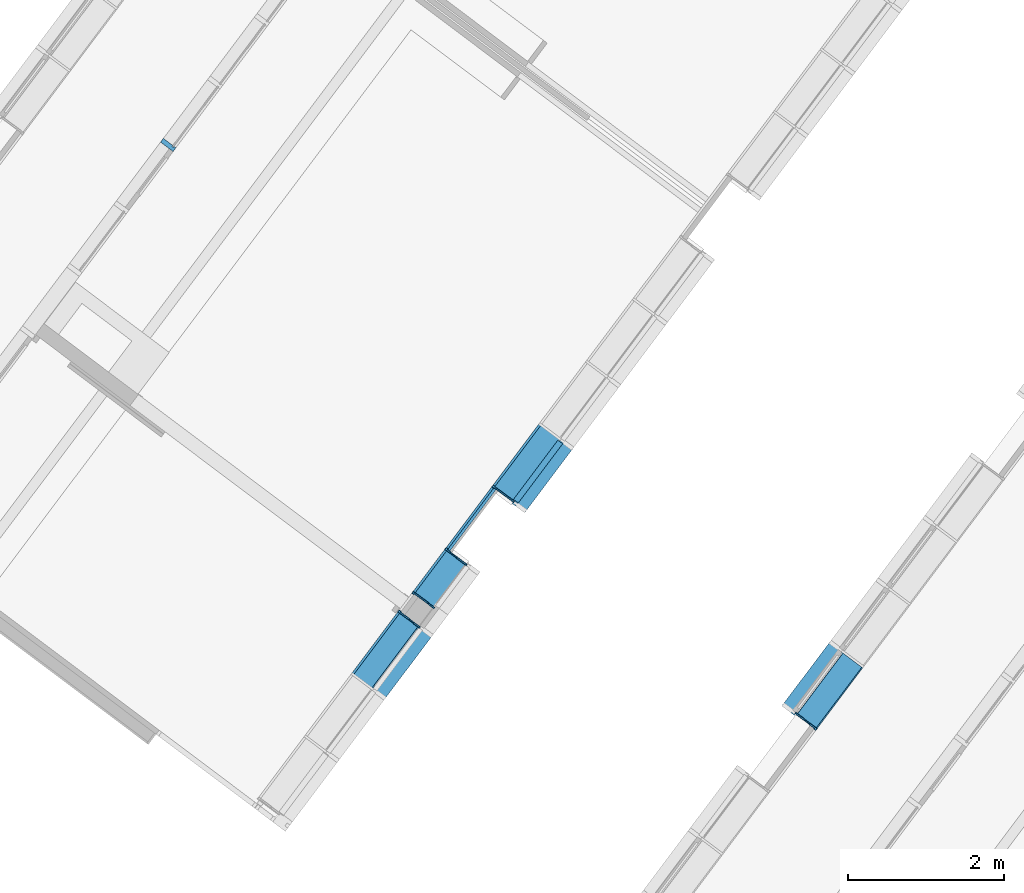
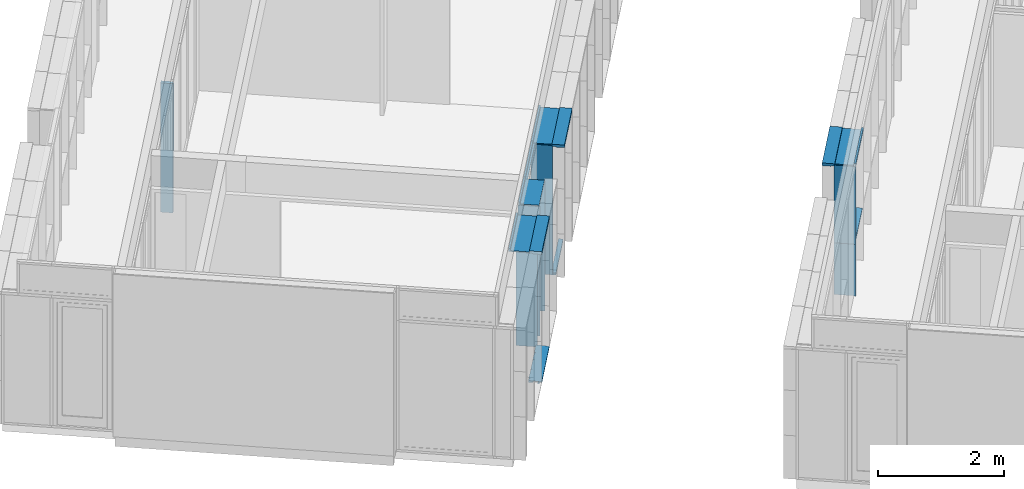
# One storey, part 39 of 243: 18 members, 5 elements without a shape of their own.
"""IFC2X3 building model written with IfcOpenShell, lengths in metres."""

from ifc_helpers import new_model, entity, si_unit, converted_unit, derived_unit, direction, frame, frame_2d, origin, origin_2d_with_axis, place, context, subcontext, project, spatial, polyline, circle_curve, parameter, trimmed, segment, composite_curve, rectangle, outline, extrude, source, transform, mapped, material, type_object, type_shapes, element, aggregate, save


model = new_model("IFC2X3")

# Units and contexts
model_context = context("Model", 3, precision=1e-05, world=origin(), true_north=direction((6.123031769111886e-17, 1.0)))
body_context = subcontext(model_context, "Body", "Model", "MODEL_VIEW")
ifc_project = project(units=[si_unit("LENGTHUNIT", "METRE"), si_unit("AREAUNIT", "SQUARE_METRE"), si_unit("VOLUMEUNIT", "CUBIC_METRE"), converted_unit("PLANEANGLEUNIT", "DEGREE", entity("IfcRatioMeasure", 0.017453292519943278), si_unit("PLANEANGLEUNIT", "RADIAN"), dimensions=[0, 0, 0, 0, 0, 0, 0]), si_unit("MASSUNIT", "GRAM", prefix="KILO"), derived_unit("MASSDENSITYUNIT", [(si_unit("MASSUNIT", "GRAM", prefix="KILO"), 1), (si_unit("LENGTHUNIT", "METRE"), -3)]), derived_unit("IONCONCENTRATIONUNIT", [(si_unit("MASSUNIT", "GRAM", prefix="KILO"), 1), (si_unit("LENGTHUNIT", "METRE"), -3)]), derived_unit("MOMENTOFINERTIAUNIT", [(si_unit("LENGTHUNIT", "METRE"), 4)]), si_unit("TIMEUNIT", "SECOND"), si_unit("FREQUENCYUNIT", "HERTZ"), si_unit("THERMODYNAMICTEMPERATUREUNIT", "DEGREE_CELSIUS"), derived_unit("THERMALTRANSMITTANCEUNIT", [(si_unit("MASSUNIT", "GRAM", prefix="KILO"), 1), (si_unit("THERMODYNAMICTEMPERATUREUNIT", "KELVIN"), -1), (si_unit("TIMEUNIT", "SECOND"), -3)]), derived_unit("THERMALCONDUCTANCEUNIT", [(si_unit("MASSUNIT", "GRAM", prefix="KILO"), 1), (si_unit("THERMODYNAMICTEMPERATUREUNIT", "KELVIN"), -1), (si_unit("TIMEUNIT", "SECOND"), -3), (si_unit("LENGTHUNIT", "METRE"), 1)]), derived_unit("VOLUMETRICFLOWRATEUNIT", [(si_unit("LENGTHUNIT", "METRE"), 3), (si_unit("TIMEUNIT", "SECOND"), -1)]), derived_unit("MASSFLOWRATEUNIT", [(si_unit("MASSUNIT", "GRAM", prefix="KILO"), 1), (si_unit("TIMEUNIT", "SECOND"), -1)]), derived_unit("ROTATIONALFREQUENCYUNIT", [(si_unit("TIMEUNIT", "SECOND"), -1)]), si_unit("ELECTRICCURRENTUNIT", "AMPERE"), si_unit("ELECTRICVOLTAGEUNIT", "VOLT"), si_unit("POWERUNIT", "WATT"), si_unit("FORCEUNIT", "NEWTON", prefix="KILO"), si_unit("ILLUMINANCEUNIT", "LUX"), si_unit("LUMINOUSFLUXUNIT", "LUMEN"), si_unit("LUMINOUSINTENSITYUNIT", "CANDELA"), derived_unit("USERDEFINED", [(si_unit("MASSUNIT", "GRAM", prefix="KILO"), -1), (si_unit("LENGTHUNIT", "METRE"), -2), (si_unit("TIMEUNIT", "SECOND"), 3), (si_unit("LUMINOUSFLUXUNIT", "LUMEN"), 1)]), derived_unit("USERDEFINED", [(si_unit("MASSUNIT", "GRAM", prefix="KILO"), 1), (si_unit("TIMEUNIT", "SECOND"), -3), (si_unit("LENGTHUNIT", "METRE"), 3), (si_unit("ELECTRICCURRENTUNIT", "AMPERE"), -2)]), derived_unit("SOUNDPOWERUNIT", [(si_unit("MASSUNIT", "GRAM", prefix="KILO"), 1), (si_unit("TIMEUNIT", "SECOND"), -3), (si_unit("LENGTHUNIT", "METRE"), 2)]), derived_unit("SOUNDPRESSUREUNIT", [(si_unit("MASSUNIT", "GRAM", prefix="KILO"), 1), (si_unit("LENGTHUNIT", "METRE"), -1), (si_unit("TIMEUNIT", "SECOND"), -2)]), derived_unit("LINEARVELOCITYUNIT", [(si_unit("LENGTHUNIT", "METRE"), 1), (si_unit("TIMEUNIT", "SECOND"), -1)]), si_unit("PRESSUREUNIT", "PASCAL"), derived_unit("USERDEFINED", [(si_unit("MASSUNIT", "GRAM", prefix="KILO"), 1), (si_unit("LENGTHUNIT", "METRE"), -2), (si_unit("TIMEUNIT", "SECOND"), -2)]), derived_unit("LINEARFORCEUNIT", [(si_unit("MASSUNIT", "GRAM", prefix="KILO"), 1), (si_unit("TIMEUNIT", "SECOND"), -2)]), derived_unit("PLANARFORCEUNIT", [(si_unit("MASSUNIT", "GRAM", prefix="KILO"), 1), (si_unit("LENGTHUNIT", "METRE"), -1), (si_unit("TIMEUNIT", "SECOND"), -2)]), derived_unit("SPECIFICHEATCAPACITYUNIT", [(si_unit("THERMODYNAMICTEMPERATUREUNIT", "KELVIN"), -1), (si_unit("LENGTHUNIT", "METRE"), 2), (si_unit("TIMEUNIT", "SECOND"), -2)]), derived_unit("HEATINGVALUEUNIT", [(si_unit("LENGTHUNIT", "METRE"), 2), (si_unit("TIMEUNIT", "SECOND"), -2)]), derived_unit("VAPORPERMEABILITYUNIT", [(si_unit("LENGTHUNIT", "METRE"), -1), (si_unit("TIMEUNIT", "SECOND"), 1)]), derived_unit("DYNAMICVISCOSITYUNIT", [(si_unit("MASSUNIT", "GRAM", prefix="KILO"), 1), (si_unit("TIMEUNIT", "SECOND"), -1), (si_unit("LENGTHUNIT", "METRE"), -1)]), derived_unit("THERMALEXPANSIONCOEFFICIENTUNIT", [(si_unit("THERMODYNAMICTEMPERATUREUNIT", "KELVIN"), -1)]), derived_unit("MODULUSOFELASTICITYUNIT", [(si_unit("MASSUNIT", "GRAM", prefix="KILO"), 1), (si_unit("LENGTHUNIT", "METRE"), -1), (si_unit("TIMEUNIT", "SECOND"), -2)]), derived_unit("ISOTHERMALMOISTURECAPACITYUNIT", [(si_unit("LENGTHUNIT", "METRE"), 3), (si_unit("MASSUNIT", "GRAM", prefix="KILO"), -1)]), derived_unit("MOISTUREDIFFUSIVITYUNIT", [(si_unit("TIMEUNIT", "SECOND"), -1), (si_unit("LENGTHUNIT", "METRE"), 2)])], contexts=[model_context])

# Site, building, storey
site_placement = place(None, frame((0.0, 0.0, 235.0), z_axis=(0.0, 0.0, 1.0), x_axis=(-0.7996477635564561, 0.6004693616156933, 0.0)))
site = spatial("IfcSite", under=ifc_project, at=site_placement, Name="Default", CompositionType="ELEMENT")
building_placement = place(site_placement, origin())
building = spatial("IfcBuilding", under=site, at=building_placement, CompositionType="ELEMENT")
storey_placement = place(building_placement, origin())
storey = spatial("IfcBuildingStorey", under=building, at=storey_placement, Name="P0- Escola", CompositionType="ELEMENT", Elevation=0.0)

# Curtain wall, member
curtain_wall_type_1 = type_object("IfcCurtainWallType", Name="Muro cortina:MC- INT- a1", PredefinedType="NOTDEFINED")
curtain_wall_1_placement = place(storey_placement, origin())
curtain_wall_1 = element("IfcCurtainWall", 1, at=curtain_wall_1_placement, inside=storey, type_object=curtain_wall_type_1, Name="Muro cortina:MC- INT- a1", ObjectType="Muro cortina:MC- INT- a1")
ifc_material_1 = material(Name="_Fusta massisa- T1")
member_type_1 = type_object("IfcMemberType", Name="Montante rectangular:MC- Fusta- 20x6 cm- Dreta", PredefinedType="MULLION", material=ifc_material_1)
shared_shape_1 = source(origin(), body_context, "Body", "SweptSolid", [
    extrude(outline(polyline([(-0.07000000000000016, -0.041249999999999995), (0.13000000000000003, -0.041249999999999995), (0.13000000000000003, 0.01875), (-0.019999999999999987, 0.01875), (-0.019999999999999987, 0.00375), (-0.04000000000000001, 0.00375), (-0.03999999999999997, 0.01875), (-0.06999999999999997, 0.01875), (-0.07000000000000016, -0.041249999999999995)])), frame((0.011250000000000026, -0.02999999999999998, -2.5050000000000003), z_axis=(0.0, 0.0, 1.0), x_axis=(0.0, -1.0, 0.0)), (0.0, 0.0, 1.0), 2.5050000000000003),
])
type_shapes(member_type_1, [shared_shape_1])
member_1_placement = place(curtain_wall_1_placement, frame((72.720147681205, -26.415189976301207, 0.0), z_axis=(0.0, 0.0, -1.0), x_axis=(0.0, -1.0, 0.0)))
member_1 = element("IfcMember", 2, at=member_1_placement, type_object=member_type_1, material=ifc_material_1, Name="Montante rectangular:MC- Fusta- 20x6 cm- Dreta", ObjectType="Montante rectangular:MC- Fusta- 20x6 cm- Dreta", context=body_context, shape_type="MappedRepresentation", body=[
    mapped(shared_shape_1, transform((0.0, 0.0, 0.0), scale=1.0)),
])
aggregate(curtain_wall_1, [member_1])

# Curtain wall, members
curtain_wall_type_2 = type_object("IfcCurtainWallType", Name="Muro cortina:MC- EXT- MC2", PredefinedType="NOTDEFINED")
curtain_wall_2_placement = place(storey_placement, origin())
curtain_wall_2 = element("IfcCurtainWall", 3, at=curtain_wall_2_placement, inside=storey, type_object=curtain_wall_type_2, Name="Muro cortina:MC- EXT- MC2", ObjectType="Muro cortina:MC- EXT- MC2")
ifc_material_2 = material(Name="_Alumini- T1- Perfil")
member_type_2 = type_object("IfcMemberType", Name="Montante rectangular:MC- Alu- 140x52,5 cm- Fa patis- Superior", PredefinedType="MULLION", material=ifc_material_2)
shared_shape_2 = source(origin(), body_context, "Body", "SweptSolid", [
    extrude(outline(polyline([(-0.11366666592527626, -0.021249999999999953), (0.026333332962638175, -0.021249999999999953), (0.026333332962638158, -0.010000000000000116), (0.0873333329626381, -0.010000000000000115), (0.0873333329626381, 0.03125000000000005), (-0.11366666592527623, 0.031250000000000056), (-0.11366666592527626, -0.021249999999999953)])), frame((-0.031250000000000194, 0.0273333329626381, -1.0), z_axis=(0.0, 0.0, 1.0), x_axis=(0.0, -1.0, 0.0)), (0.0, 0.0, 1.0), 0.9999999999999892),
])
type_shapes(member_type_2, [shared_shape_2])
member_2_placement = place(curtain_wall_2_placement, frame((66.44514768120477, -23.415191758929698, 2.545), z_axis=(0.0, -1.0, 0.0), x_axis=(0.0, 0.0, 1.0)))
member_2 = element("IfcMember", 4, at=member_2_placement, type_object=member_type_2, material=ifc_material_2, Name="Montante rectangular:MC- Alu- 140x52,5 cm- Fa patis- Superior", ObjectType="Montante rectangular:MC- Alu- 140x52,5 cm- Fa patis- Superior", context=body_context, shape_type="MappedRepresentation", body=[
    mapped(shared_shape_2, transform((0.0, 0.0, 0.0), scale=1.0)),
])
member_type_3 = type_object("IfcMemberType", Name="Montante rectangular:MC- Alu- 140x52,5 cm- Fa patis- inferior", PredefinedType="MULLION", material=ifc_material_2)
shared_shape_3 = source(origin(), body_context, "Body", "SweptSolid", [
    extrude(outline(composite_curve([segment(polyline([(0.1278672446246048, -0.02586710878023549), (0.14416724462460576, -0.025867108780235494)]), True, "CONTINUOUS"), segment(polyline([(0.14416724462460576, -0.025867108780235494), (0.1441672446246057, 0.009132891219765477)]), True, "CONTINUOUS"), segment(polyline([(0.1441672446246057, 0.009132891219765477), (0.06786724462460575, 0.009132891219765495)]), True, "CONTINUOUS"), segment(polyline([(0.06786724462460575, 0.009132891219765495), (0.06786724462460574, -0.021159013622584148)]), True, "CONTINUOUS"), segment(polyline([(0.06786724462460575, -0.02115901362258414), (-0.030132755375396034, -0.012332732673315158)]), True, "CONTINUOUS"), segment(polyline([(-0.03013275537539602, -0.012332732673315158), (-0.030132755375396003, 0.027132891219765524)]), True, "CONTINUOUS"), segment(polyline([(-0.030132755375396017, 0.02713289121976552), (-0.0021327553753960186, 0.02713289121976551)]), True, "CONTINUOUS"), segment(polyline([(-0.0021327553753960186, 0.027132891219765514), (-0.0021327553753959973, 0.029132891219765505)]), True, "CONTINUOUS"), segment(polyline([(-0.0021327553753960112, 0.029132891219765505), (-0.032132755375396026, 0.029132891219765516)]), True, "CONTINUOUS"), segment(polyline([(-0.032132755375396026, 0.029132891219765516), (-0.03213275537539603, -0.012152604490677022)]), True, "CONTINUOUS"), segment(polyline([(-0.03213275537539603, -0.012152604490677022), (-0.0701327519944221, -0.008730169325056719)]), True, "CONTINUOUS"), segment(polyline([(-0.0701327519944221, -0.008730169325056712), (-0.0701327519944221, 0.005766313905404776)]), True, "CONTINUOUS"), segment(trimmed(circle_curve(frame_2d((-0.0696327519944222, 0.0057663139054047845), x_axis=(-1.0, 0.0)), 0.0004999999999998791), [parameter(269.999999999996)], [parameter(0.0)], True, "PARAMETER"), False, "CONTINUOUS"), segment(polyline([(-0.0696327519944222, 0.00626631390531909), (-0.06213275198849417, 0.006266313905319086)]), True, "CONTINUOUS"), segment(polyline([(-0.06213275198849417, 0.006266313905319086), (-0.06213275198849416, 0.008266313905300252)]), True, "CONTINUOUS"), segment(polyline([(-0.06213275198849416, 0.008266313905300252), (-0.07013275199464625, 0.008266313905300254)]), True, "CONTINUOUS"), segment(trimmed(circle_curve(frame_2d((-0.07013275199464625, 0.006266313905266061), x_axis=(0.0, 1.0)), 0.0020000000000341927), [parameter(0.0)], [parameter(90.00000002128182)], True, "PARAMETER"), True, "CONTINUOUS"), segment(polyline([(-0.07213275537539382, 0.006266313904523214), (-0.07213275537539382, -0.008730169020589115)]), True, "CONTINUOUS"), segment(trimmed(circle_curve(frame_2d((-0.07013275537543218, -0.008730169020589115), x_axis=(-1.0, 0.0)), 0.0019999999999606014), [parameter(0.0)], [parameter(84.8535928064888)], True, "PARAMETER"), True, "CONTINUOUS"), segment(polyline([(-0.07031215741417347, -0.01072210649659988), (0.06786724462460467, -0.023167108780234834)]), True, "CONTINUOUS"), segment(polyline([(0.06786724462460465, -0.023167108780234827), (0.12786724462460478, -0.023167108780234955)]), True, "CONTINUOUS"), segment(polyline([(0.12786724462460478, -0.023167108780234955), (0.1278672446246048, -0.02586710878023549)]), True, "CONTINUOUS")], self_intersect=False)), frame((-0.029132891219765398, 0.06786724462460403, -1.0), z_axis=(0.0, 0.0, 1.0), x_axis=(0.0, -1.0, 0.0)), (0.0, 0.0, 1.0), 0.9999999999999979),
])
type_shapes(member_type_3, [shared_shape_3])
member_3_placement = place(curtain_wall_2_placement, frame((66.44514768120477, -22.4151917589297, -0.02), z_axis=(0.0, 1.0, 0.0), x_axis=(0.0, 0.0, -1.0)))
member_3 = element("IfcMember", 5, at=member_3_placement, type_object=member_type_3, material=ifc_material_2, Name="Montante rectangular:MC- Alu- 140x52,5 cm- Fa patis- inferior", ObjectType="Montante rectangular:MC- Alu- 140x52,5 cm- Fa patis- inferior", context=body_context, shape_type="MappedRepresentation", body=[
    mapped(shared_shape_3, transform((0.0, 0.0, 0.0), scale=1.0)),
])

curtain_wall_type_3 = type_object("IfcCurtainWallType", Name="Muro cortina:MC- INT- k7- Aules infantil", PredefinedType="NOTDEFINED")
curtain_wall_3_placement = place(storey_placement, origin())
curtain_wall_3 = element("IfcCurtainWall", 6, at=curtain_wall_3_placement, inside=storey, type_object=curtain_wall_type_3, Name="Muro cortina:MC- INT- k7- Aules infantil", ObjectType="Muro cortina:MC- INT- k7- Aules infantil")
member_type_4 = type_object("IfcMemberType", Name="Montante rectangular:MC- Fusta- 35x3 cm- Pati aules- Remat superior", PredefinedType="MULLION", material=ifc_material_1)
shared_shape_4 = source(origin(), body_context, "Body", "SweptSolid", [
    extrude(outline(polyline([(-0.21333333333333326, -0.02666666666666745), (0.1216666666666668, -0.02666666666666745), (0.12166666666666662, 0.03333333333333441), (0.09166666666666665, 0.03333333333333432), (0.09166666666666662, -0.006666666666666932), (-0.2133333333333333, -0.006666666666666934), (-0.21333333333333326, -0.02666666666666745)])), frame((-0.033333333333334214, 0.026666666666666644, -1.0), z_axis=(0.0, 0.0, 1.0), x_axis=(0.0, -1.0, 0.0)), (0.0, 0.0, 1.0), 0.9999999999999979),
])
type_shapes(member_type_4, [shared_shape_4])
member_4_placement = place(curtain_wall_3_placement, frame((66.74514768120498, -23.415191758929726, 2.565), z_axis=(0.0, -1.0, 0.0), x_axis=(0.0, 0.0, 1.0)))
member_4 = element("IfcMember", 7, at=member_4_placement, type_object=member_type_4, material=ifc_material_1, Name="Montante rectangular:MC- Fusta- 35x3 cm- Pati aules- Remat superior", ObjectType="Montante rectangular:MC- Fusta- 35x3 cm- Pati aules- Remat superior", context=body_context, shape_type="MappedRepresentation", body=[
    mapped(shared_shape_4, transform((0.0, 0.0, 0.0), scale=1.0)),
])
member_type_5 = type_object("IfcMemberType", Name="Montante rectangular:MC- Fusta- 35x3 cm- Pati aules- Remat dreta", PredefinedType="MULLION", material=ifc_material_1)
shared_shape_5 = source(origin(), body_context, "Body", "SweptSolid", [
    extrude(outline(polyline([(-0.22, -0.01666666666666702), (0.12500000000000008, -0.01666666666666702), (0.12500000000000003, 0.013333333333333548), (0.09500000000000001, 0.013333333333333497), (0.09499999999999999, 0.003333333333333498), (-0.22, 0.003333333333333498), (-0.22, -0.01666666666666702)])), frame((0.0016666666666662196, 0.03000000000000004, -2.504999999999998), z_axis=(0.0, 0.0, 1.0), x_axis=(0.0, -1.0, 0.0)), (0.0, 0.0, 1.0), 2.5049999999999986),
])
type_shapes(member_type_5, [shared_shape_5])
member_5_placement = place(curtain_wall_3_placement, frame((66.74514768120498, -23.415191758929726, 0.0), z_axis=(0.0, 0.0, -1.0), x_axis=(0.0, -1.0, 0.0)))
member_5 = element("IfcMember", 8, at=member_5_placement, type_object=member_type_5, material=ifc_material_1, Name="Montante rectangular:MC- Fusta- 35x3 cm- Pati aules- Remat dreta", ObjectType="Montante rectangular:MC- Fusta- 35x3 cm- Pati aules- Remat dreta", context=body_context, shape_type="MappedRepresentation", body=[
    mapped(shared_shape_5, transform((0.0, 0.0, 0.0), scale=1.0)),
])
member_6_placement = place(curtain_wall_3_placement, frame((66.74514768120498, -24.415191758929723, 0.0), z_axis=(0.0, 0.0, -1.0), x_axis=(0.0, -1.0, 0.0)))
member_6 = element("IfcMember", 9, at=member_6_placement, type_object=member_type_5, material=ifc_material_1, Name="Montante rectangular:MC- Fusta- 35x3 cm- Pati aules- Remat dreta", ObjectType="Montante rectangular:MC- Fusta- 35x3 cm- Pati aules- Remat dreta", context=body_context, shape_type="MappedRepresentation", body=[
    mapped(shared_shape_5, transform((0.0, 0.0, 0.0), scale=1.0)),
])
member_type_6 = type_object("IfcMemberType", Name="Montante rectangular:MC- Fusta- 35x3 cm- Pati aules- Remat superior", PredefinedType="MULLION", material=ifc_material_1)
shared_shape_6 = source(origin(), body_context, "Body", "SweptSolid", [
    extrude(outline(polyline([(-0.21333333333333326, -0.02666666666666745), (0.1216666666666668, -0.02666666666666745), (0.12166666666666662, 0.03333333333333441), (0.09166666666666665, 0.03333333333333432), (0.09166666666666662, -0.006666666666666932), (-0.2133333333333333, -0.006666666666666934), (-0.21333333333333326, -0.02666666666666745)])), frame((-0.033333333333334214, 0.026666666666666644, -0.6999999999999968), z_axis=(0.0, 0.0, 1.0), x_axis=(0.0, -1.0, 0.0)), (0.0, 0.0, 1.0), 0.6999999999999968),
])
type_shapes(member_type_6, [shared_shape_6])
member_7_placement = place(curtain_wall_3_placement, frame((66.74514768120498, -24.415191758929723, 2.565), z_axis=(0.0, -1.0, 0.0), x_axis=(0.0, 0.0, 1.0)))
member_7 = element("IfcMember", 10, at=member_7_placement, type_object=member_type_6, material=ifc_material_1, Name="Montante rectangular:MC- Fusta- 35x3 cm- Pati aules- Remat superior", ObjectType="Montante rectangular:MC- Fusta- 35x3 cm- Pati aules- Remat superior", context=body_context, shape_type="MappedRepresentation", body=[
    mapped(shared_shape_6, transform((0.0, 0.0, 0.0), scale=1.0)),
])
member_type_7 = type_object("IfcMemberType", Name="Montante rectangular:MC- Fusta- 35x3 cm- Pati aules- Remat superior pilar", PredefinedType="MULLION", material=ifc_material_1)
shared_shape_7 = source(origin(), body_context, "Body", "SweptSolid", [
    extrude(outline(polyline([(-0.03333333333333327, -0.02666666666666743), (0.031666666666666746, -0.02666666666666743), (0.031666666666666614, 0.03333333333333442), (0.0016666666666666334, 0.033333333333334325), (0.0016666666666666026, -0.006666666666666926), (-0.03333333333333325, -0.00666666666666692), (-0.03333333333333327, -0.02666666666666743)])), frame((-0.03333333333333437, -0.06333333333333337, -1.0), z_axis=(0.0, 0.0, 1.0), x_axis=(0.0, -1.0, 0.0)), (0.0, 0.0, 1.0), 0.9999999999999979),
])
type_shapes(member_type_7, [shared_shape_7])
member_8_placement = place(curtain_wall_3_placement, frame((66.74514768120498, -25.415191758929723, 2.565), z_axis=(0.0, -1.0, 0.0), x_axis=(0.0, 0.0, 1.0)))
member_8 = element("IfcMember", 11, at=member_8_placement, type_object=member_type_7, material=ifc_material_1, Name="Montante rectangular:MC- Fusta- 35x3 cm- Pati aules- Remat superior pilar", ObjectType="Montante rectangular:MC- Fusta- 35x3 cm- Pati aules- Remat superior pilar", context=body_context, shape_type="MappedRepresentation", body=[
    mapped(shared_shape_7, transform((0.0, 0.0, 0.0), scale=1.0)),
])
member_type_8 = type_object("IfcMemberType", Name="Montante rectangular:MC- Fusta- 35x3 cm- Pati aules- Remat esquerra", PredefinedType="MULLION", material=ifc_material_1)
shared_shape_8 = source(origin(), body_context, "Body", "SweptSolid", [
    extrude(outline(polyline([(0.09500000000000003, -0.013333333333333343), (0.12500000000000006, -0.013333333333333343), (0.12500000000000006, 0.01666666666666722), (-0.22000000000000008, 0.016666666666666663), (-0.22000000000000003, -0.0033333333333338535), (0.09499999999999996, -0.003333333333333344), (0.09500000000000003, -0.013333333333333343)])), frame((-0.0016666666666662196, 0.03000000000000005, -2.504999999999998), z_axis=(0.0, 0.0, 1.0), x_axis=(0.0, -1.0, 0.0)), (0.0, 0.0, 1.0), 2.5049999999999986),
])
type_shapes(member_type_8, [shared_shape_8])
member_9_placement = place(curtain_wall_3_placement, frame((66.74514768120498, -25.415191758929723, 0.0), z_axis=(0.0, 0.0, -1.0), x_axis=(0.0, -1.0, 0.0)))
member_9 = element("IfcMember", 12, at=member_9_placement, type_object=member_type_8, material=ifc_material_1, Name="Montante rectangular:MC- Fusta- 35x3 cm- Pati aules- Remat esquerra", ObjectType="Montante rectangular:MC- Fusta- 35x3 cm- Pati aules- Remat esquerra", context=body_context, shape_type="MappedRepresentation", body=[
    mapped(shared_shape_8, transform((0.0, 0.0, 0.0), scale=1.0)),
])
member_type_9 = type_object("IfcMemberType", Name="Montante rectangular:MC- Fusta- 35x3 cm- Pati aules- Remat superior", PredefinedType="MULLION", material=ifc_material_1)
shared_shape_9 = source(origin(), body_context, "Body", "SweptSolid", [
    extrude(outline(polyline([(-0.21333333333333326, -0.02666666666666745), (0.1216666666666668, -0.02666666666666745), (0.12166666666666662, 0.03333333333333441), (0.09166666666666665, 0.03333333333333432), (0.09166666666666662, -0.006666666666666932), (-0.2133333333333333, -0.006666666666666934), (-0.21333333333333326, -0.02666666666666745)])), frame((-0.033333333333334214, 0.026666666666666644, -1.0), z_axis=(0.0, 0.0, 1.0), x_axis=(0.0, -1.0, 0.0)), (0.0, 0.0, 1.0), 0.9999999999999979),
])
type_shapes(member_type_9, [shared_shape_9])
member_10_placement = place(curtain_wall_3_placement, frame((66.74514768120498, -26.41519175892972, 2.565), z_axis=(0.0, -1.0, 0.0), x_axis=(0.0, 0.0, 1.0)))
member_10 = element("IfcMember", 13, at=member_10_placement, type_object=member_type_9, material=ifc_material_1, Name="Montante rectangular:MC- Fusta- 35x3 cm- Pati aules- Remat superior", ObjectType="Montante rectangular:MC- Fusta- 35x3 cm- Pati aules- Remat superior", context=body_context, shape_type="MappedRepresentation", body=[
    mapped(shared_shape_9, transform((0.0, 0.0, 0.0), scale=1.0)),
])
member_type_10 = type_object("IfcMemberType", Name="Montante rectangular:MC- Fusta- 35x3 cm- Pati aules- Remat esquerra", PredefinedType="MULLION", material=ifc_material_1)
shared_shape_10 = source(origin(), body_context, "Body", "SweptSolid", [
    extrude(outline(polyline([(0.09500000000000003, -0.013333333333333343), (0.12500000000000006, -0.013333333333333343), (0.12500000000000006, 0.01666666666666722), (-0.22000000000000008, 0.016666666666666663), (-0.22000000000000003, -0.0033333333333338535), (0.09499999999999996, -0.003333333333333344), (0.09500000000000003, -0.013333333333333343)])), frame((-0.0016666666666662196, 0.03000000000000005, -2.504999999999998), z_axis=(0.0, 0.0, 1.0), x_axis=(0.0, -1.0, 0.0)), (0.0, 0.0, 1.0), 2.5049999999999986),
])
type_shapes(member_type_10, [shared_shape_10])
member_11_placement = place(curtain_wall_3_placement, frame((66.74514768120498, -23.715191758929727, 0.0), z_axis=(0.0, 0.0, -1.0), x_axis=(0.0, -1.0, 0.0)))
member_11 = element("IfcMember", 14, at=member_11_placement, type_object=member_type_10, material=ifc_material_1, Name="Montante rectangular:MC- Fusta- 35x3 cm- Pati aules- Remat esquerra", ObjectType="Montante rectangular:MC- Fusta- 35x3 cm- Pati aules- Remat esquerra", context=body_context, shape_type="MappedRepresentation", body=[
    mapped(shared_shape_10, transform((0.0, 0.0, 0.0), scale=1.0)),
])
aggregate(curtain_wall_3, [member_4, member_5, member_7, member_6, member_8, member_9, member_10, member_11])

curtain_wall_type_4 = type_object("IfcCurtainWallType", Name="Muro cortina:MC- INT- k2", PredefinedType="NOTDEFINED")
curtain_wall_4_placement = place(storey_placement, origin())
curtain_wall_4 = element("IfcCurtainWall", 15, at=curtain_wall_4_placement, inside=storey, type_object=curtain_wall_type_4, Name="Muro cortina:MC- INT- k2", ObjectType="Muro cortina:MC- INT- k2")
member_type_11 = type_object("IfcMemberType", Name="Montante rectangular:MC- Fusta- 35x3 cm- Pati aules- Remat superior", PredefinedType="MULLION", material=ifc_material_1)
shared_shape_11 = source(origin(), body_context, "Body", "SweptSolid", [
    extrude(outline(polyline([(-0.12166666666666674, -0.02666666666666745), (0.21333333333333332, -0.02666666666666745), (0.2133333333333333, -0.006666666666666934), (-0.09166666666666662, -0.006666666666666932), (-0.09166666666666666, 0.03333333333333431), (-0.12166666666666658, 0.03333333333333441), (-0.12166666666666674, -0.02666666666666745)])), frame((-0.033333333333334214, -0.026666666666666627, -1.0), z_axis=(0.0, 0.0, 1.0), x_axis=(0.0, -1.0, 0.0)), (0.0, 0.0, 1.0), 0.9999999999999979),
])
type_shapes(member_type_11, [shared_shape_11])
member_12_placement = place(curtain_wall_4_placement, frame((61.74514768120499, -26.4151917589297, 2.565), z_axis=(0.0, -1.0, 0.0), x_axis=(0.0, 0.0, 1.0)))
member_12 = element("IfcMember", 16, at=member_12_placement, type_object=member_type_11, material=ifc_material_1, Name="Montante rectangular:MC- Fusta- 35x3 cm- Pati aules- Remat superior", ObjectType="Montante rectangular:MC- Fusta- 35x3 cm- Pati aules- Remat superior", context=body_context, shape_type="MappedRepresentation", body=[
    mapped(shared_shape_11, transform((0.0, 0.0, 0.0), scale=1.0)),
])
member_type_12 = type_object("IfcMemberType", Name="Montante rectangular:MC- Fusta- 35x3 cm- Pati aules- Remat esquerra", PredefinedType="MULLION", material=ifc_material_1)
shared_shape_12 = source(origin(), body_context, "Body", "SweptSolid", [
    extrude(outline(polyline([(-0.12500000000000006, -0.013333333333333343), (-0.09500000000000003, -0.013333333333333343), (-0.09499999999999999, -0.0033333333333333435), (0.22000000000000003, -0.003333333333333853), (0.22000000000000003, 0.016666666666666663), (-0.12500000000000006, 0.01666666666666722), (-0.12500000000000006, -0.013333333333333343)])), frame((-0.00166666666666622, -0.03000000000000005, -1.0), z_axis=(0.0, 0.0, 1.0), x_axis=(0.0, -1.0, 0.0)), (0.0, 0.0, 1.0), 1.0),
])
type_shapes(member_type_12, [shared_shape_12])
member_13_placement = place(curtain_wall_4_placement, frame((61.74514768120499, -25.415191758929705, 0.0), z_axis=(0.0, 0.0, -1.0), x_axis=(0.0, -1.0, 0.0)))
member_13 = element("IfcMember", 17, at=member_13_placement, type_object=member_type_12, material=ifc_material_1, Name="Montante rectangular:MC- Fusta- 35x3 cm- Pati aules- Remat esquerra", ObjectType="Montante rectangular:MC- Fusta- 35x3 cm- Pati aules- Remat esquerra", context=body_context, shape_type="MappedRepresentation", body=[
    mapped(shared_shape_12, transform((0.0, 0.0, 0.0), scale=1.0)),
])
member_type_13 = type_object("IfcMemberType", Name="Montante rectangular:MC- Fusta- 35x3 cm- Pati aules- Prestatge", PredefinedType="MULLION", material=ifc_material_1)
shared_shape_13 = source(origin(), body_context, "Body", "SweptSolid", [
    extrude(rectangle(XDim=0.30000000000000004, YDim=0.03000000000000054, at=frame_2d((0.0, -1.231653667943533e-16), x_axis=(1.0, 0.0))), frame((0.0, -0.07000000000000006, -0.9699999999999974), z_axis=(0.0, 0.0, 1.0), x_axis=(0.0, -1.0, 0.0)), (0.0, 0.0, 1.0), 0.969999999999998),
])
type_shapes(member_type_13, [shared_shape_13])
member_14_placement = place(curtain_wall_4_placement, frame((61.74514768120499, -26.4001917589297, 1.0), z_axis=(0.0, -1.0, 0.0), x_axis=(0.0, 0.0, 1.0)))
member_14 = element("IfcMember", 18, at=member_14_placement, type_object=member_type_13, material=ifc_material_1, Name="Montante rectangular:MC- Fusta- 35x3 cm- Pati aules- Prestatge", ObjectType="Montante rectangular:MC- Fusta- 35x3 cm- Pati aules- Prestatge", context=body_context, shape_type="MappedRepresentation", body=[
    mapped(shared_shape_13, transform((0.0, 0.0, 0.0), scale=1.0)),
])
member_type_14 = type_object("IfcMemberType", Name="Montante rectangular:MC- Fusta- 35x3 cm- Pati aules- Remat esquerra", PredefinedType="MULLION", material=ifc_material_1)
shared_shape_14 = source(origin(), body_context, "Body", "SweptSolid", [
    extrude(outline(polyline([(-0.12500000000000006, -0.013333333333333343), (-0.09500000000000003, -0.013333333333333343), (-0.09499999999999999, -0.0033333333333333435), (0.22000000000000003, -0.003333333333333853), (0.22000000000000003, 0.016666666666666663), (-0.12500000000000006, 0.01666666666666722), (-0.12500000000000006, -0.013333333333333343)])), frame((-0.00166666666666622, -0.03000000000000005, -1.504999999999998), z_axis=(0.0, 0.0, 1.0), x_axis=(0.0, -1.0, 0.0)), (0.0, 0.0, 1.0), 1.504999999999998),
])
type_shapes(member_type_14, [shared_shape_14])
member_15_placement = place(curtain_wall_4_placement, frame((61.74514768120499, -25.415191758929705, 1.0), z_axis=(0.0, 0.0, -1.0), x_axis=(0.0, -1.0, 0.0)))
member_15 = element("IfcMember", 19, at=member_15_placement, type_object=member_type_14, material=ifc_material_1, Name="Montante rectangular:MC- Fusta- 35x3 cm- Pati aules- Remat esquerra", ObjectType="Montante rectangular:MC- Fusta- 35x3 cm- Pati aules- Remat esquerra", context=body_context, shape_type="MappedRepresentation", body=[
    mapped(shared_shape_14, transform((0.0, 0.0, 0.0), scale=1.0)),
])
aggregate(curtain_wall_4, [member_13, member_12, member_14, member_15])

# Member
member_type_15 = type_object("IfcMemberType", Name="Montante rectangular:MC- Alu- 140x52,5 cm- Fa patis- inferior porta", PredefinedType="MULLION", material=ifc_material_2)
shared_shape_15 = source(origin(), body_context, "Body", "SweptSolid", [
    extrude(rectangle(XDim=0.07629999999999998, YDim=0.04, at=origin_2d_with_axis()), frame((-0.020000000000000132, -0.0381500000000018, -0.9474999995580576), z_axis=(0.0, 0.0, 1.0), x_axis=(0.0, -1.0, 0.0)), (0.0, 0.0, 1.0), 0.9474999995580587),
])
type_shapes(member_type_15, [shared_shape_15])
member_16_placement = place(curtain_wall_2_placement, frame((66.44514768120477, -25.441441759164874, -0.02), z_axis=(0.0, 1.0, 0.0), x_axis=(0.0, 0.0, -1.0)))
member_16 = element("IfcMember", 20, at=member_16_placement, type_object=member_type_15, material=ifc_material_2, Name="Montante rectangular:MC- Alu- 140x52,5 cm- Fa patis- inferior porta", ObjectType="Montante rectangular:MC- Alu- 140x52,5 cm- Fa patis- inferior porta", context=body_context, shape_type="MappedRepresentation", body=[
    mapped(shared_shape_15, transform((0.0, 0.0, 0.0), scale=1.0)),
])

member_type_16 = type_object("IfcMemberType", Name="Montante rectangular:MC- Alu- 140x52,5 cm- Fa patis- Superior", PredefinedType="MULLION", material=ifc_material_2)
shared_shape_16 = source(origin(), body_context, "Body", "SweptSolid", [
    extrude(outline(polyline([(-0.11366666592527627, -0.021249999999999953), (0.02633333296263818, -0.021249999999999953), (0.02633333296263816, -0.010000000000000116), (0.08733333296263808, -0.010000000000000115), (0.08733333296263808, 0.03125000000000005), (-0.11366666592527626, 0.031250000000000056), (-0.11366666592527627, -0.021249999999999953)])), frame((-0.031250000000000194, 0.027333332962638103, -1.0262500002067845), z_axis=(0.0, 0.0, 1.0), x_axis=(0.0, -1.0, 0.0)), (0.0, 0.0, 1.0), 1.0262500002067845),
])
type_shapes(member_type_16, [shared_shape_16])
member_17_placement = place(curtain_wall_2_placement, frame((66.44514768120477, -26.415191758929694, 2.545), z_axis=(0.0, -1.0, 0.0), x_axis=(0.0, 0.0, 1.0)))
member_17 = element("IfcMember", 21, at=member_17_placement, type_object=member_type_16, material=ifc_material_2, Name="Montante rectangular:MC- Alu- 140x52,5 cm- Fa patis- Superior", ObjectType="Montante rectangular:MC- Alu- 140x52,5 cm- Fa patis- Superior", context=body_context, shape_type="MappedRepresentation", body=[
    mapped(shared_shape_16, transform((0.0, 0.0, 0.0), scale=1.0)),
])

aggregate(curtain_wall_2, [member_3, member_2, member_17, member_16])

# Curtain wall, member
curtain_wall_type_5 = type_object("IfcCurtainWallType", Name="Muro cortina:MC- EXT- MC5", PredefinedType="NOTDEFINED")
curtain_wall_5_placement = place(storey_placement, origin())
curtain_wall_5 = element("IfcCurtainWall", 22, at=curtain_wall_5_placement, inside=storey, type_object=curtain_wall_type_5, Name="Muro cortina:MC- EXT- MC5", ObjectType="Muro cortina:MC- EXT- MC5")
member_type_17 = type_object("IfcMemberType", Name="Montante rectangular:MC- Alu- 140x52,5 cm- Fa patis- Superior", PredefinedType="MULLION", material=ifc_material_2)
shared_shape_17 = source(origin(), body_context, "Body", "SweptSolid", [
    extrude(outline(polyline([(-0.026333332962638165, -0.021249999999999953), (0.11366666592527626, -0.021249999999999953), (0.11366666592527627, 0.031250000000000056), (-0.08733333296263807, 0.03125000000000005), (-0.0873333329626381, -0.010000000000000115), (-0.026333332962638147, -0.010000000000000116), (-0.026333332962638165, -0.021249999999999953)])), frame((-0.031250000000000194, -0.02733333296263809, -1.0262500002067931), z_axis=(0.0, 0.0, 1.0), x_axis=(0.0, -1.0, 0.0)), (0.0, 0.0, 1.0), 1.0262500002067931),
])
type_shapes(member_type_17, [shared_shape_17])
member_18_placement = place(curtain_wall_5_placement, frame((62.04514768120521, -26.415191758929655, 2.545), z_axis=(0.0, -1.0, 0.0), x_axis=(0.0, 0.0, 1.0)))
member_18 = element("IfcMember", 23, at=member_18_placement, type_object=member_type_17, material=ifc_material_2, Name="Montante rectangular:MC- Alu- 140x52,5 cm- Fa patis- Superior", ObjectType="Montante rectangular:MC- Alu- 140x52,5 cm- Fa patis- Superior", context=body_context, shape_type="MappedRepresentation", body=[
    mapped(shared_shape_17, transform((0.0, 0.0, 0.0), scale=1.0)),
])
aggregate(curtain_wall_5, [member_18])

save(model, "model.ifc")
